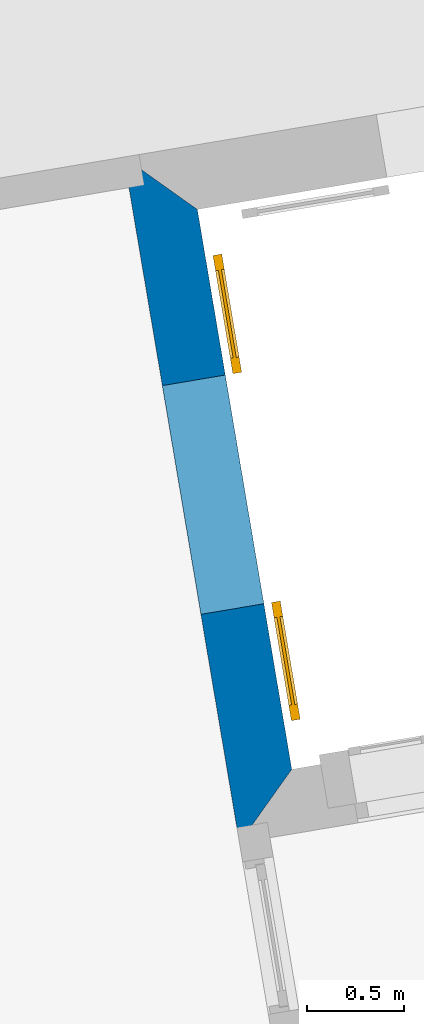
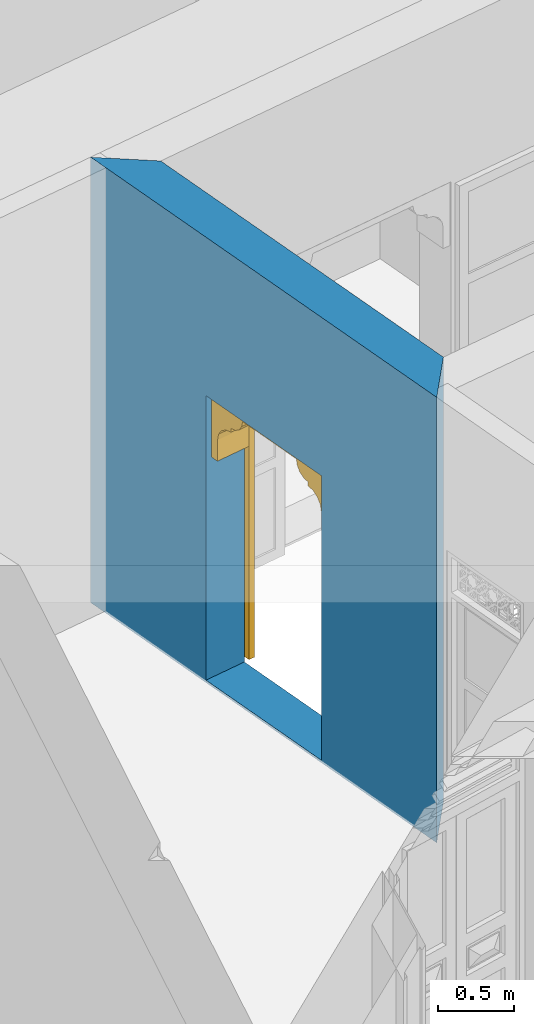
# One storey, part 9 of 15: 1 door, 1 wall, 1 opening.
"""IFC4 building model written with IfcOpenShell, lengths in metres."""

from ifc_helpers import new_model, si_unit, frame, origin, origin_with_axes, place, context, subcontext, project, spatial, polyline, outline, extrude, faceted_brep, source, transform, mapped, material, layer, layer_set, layer_usage, type_object, type_shapes, element, fill, save


model = new_model("IFC4")

# Units and contexts
model_context = context("Model", 3, world=origin_with_axes())
body_context = subcontext(model_context, "Body", "Model", "MODEL_VIEW")
ifc_project = project(units=[si_unit("PLANEANGLEUNIT", "RADIAN"), si_unit("MASSUNIT", "GRAM", prefix="KILO"), si_unit("FORCEUNIT", "NEWTON", prefix="KILO"), si_unit("LENGTHUNIT", "METRE"), si_unit("AREAUNIT", "SQUARE_METRE"), si_unit("VOLUMEUNIT", "CUBIC_METRE")], contexts=[model_context, model_context])

# Site, building, storey
site_placement = place(None, origin_with_axes())
site = spatial("IfcSite", under=ifc_project, at=site_placement, Name="Site plot-6", CompositionType="ELEMENT")
building_placement = place(None, origin_with_axes())
building = spatial("IfcBuilding", under=site, at=building_placement, Name="Building plot-6", CompositionType="ELEMENT")
storey_placement = place(None, origin_with_axes())
storey = spatial("IfcBuildingStorey", under=building, at=storey_placement, Name="plot-6 0", CompositionType="ELEMENT", Elevation=0.0)

# Wall, opening, door
ifc_material = material(Name="Masonry")
ifc_layer = layer(ifc_material, 0.33, ventilated=False)
ifc_layer_set = layer_set([ifc_layer], Name="exterior_0.08_0.25")
ifc_layer_usage = layer_usage(ifc_layer_set, "AXIS2", "POSITIVE", -0.25)
wall_type = type_object("IfcWallType", Name="exterior_0.08_0.25", PredefinedType="SOLIDWALL", material=ifc_layer_set)
wall_placement = place(storey_placement, frame((-6.37480768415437, -0.724200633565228, 0.0), z_axis=(0.0, 0.0, 1.0), x_axis=(-0.166292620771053, 0.986076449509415, 0.0)))
wall = element("IfcWall", 1, at=wall_placement, inside=storey, type_object=wall_type, material=ifc_layer_usage, Name="exterior", context=body_context, shape_type="SweptSolid", body=[
    extrude(outline(polyline([(-0.0800000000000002, 0.0799999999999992), (0.25, -0.25), (3.1871885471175, -0.249999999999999), (3.51718854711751, 0.0799999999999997), (-0.0800000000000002, 0.0799999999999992)])), origin_with_axes(), (0.0, 0.0, 1.0), 3.6),
])
opening_placement = place(wall_placement, frame((1.11859427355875, 0.0, 0.02)))
opening = element("IfcOpeningElement", 2, at=opening_placement, cuts=wall, Name="My Opening", ObjectType="Opening", context=body_context, shape_type="SweptSolid", body=[
    extrude(outline(polyline([(0.0, -0.27), (1.2, -0.27), (1.2, 1.1), (0.0, 1.1), (0.0, -0.27)])), origin_with_axes(), (0.0, 0.0, 1.0), 2.3),
])
door_type = type_object("IfcDoorType", Name="arch-1200x2300", OperationType="SINGLE_SWING_LEFT", PredefinedType="NOTDEFINED")
shared_shape = source(origin(), body_context, "Body", "Brep", [
    faceted_brep([(-0.08, -0.02, 0.08), (-0.08, -0.02, 0.0), (-0.54, -0.02, 0.0), (-0.54, -0.02, 0.08), (-0.62, -0.02, 0.0), (-0.62, -0.02, 0.08), (-0.54, -0.035, 0.08), (-0.08, -0.035, 0.08), (0.0, -0.02, 0.08), (0.0, -0.02, 0.0), (-0.08, -0.066, 0.0), (-0.54, -0.066, 0.0), (-0.62, -0.066, 0.0), (-0.62, -0.066, 0.08), (-0.54, -0.02, 0.743333), (-0.62, -0.02, 0.743333), (-0.54, -0.035, 0.743333), (-0.08, -0.035, 0.743333), (-0.08, -0.02, 0.743333), (0.0, -0.02, 0.743333), (0.0, -0.066, 0.08), (0.0, -0.066, 0.0), (-0.54, -0.066, 0.08), (-0.08, -0.066, 0.08), (-0.62, -0.066, 0.743333), (-0.54, -0.02, 0.823333), (-0.62, -0.02, 0.823333), (0.0, -0.066, 0.743333), (0.0, -0.02, 0.823333), (-0.08, -0.02, 0.823333), (-0.08, -0.051, 0.08), (-0.54, -0.051, 0.08), (-0.54, -0.066, 0.743333), (-0.62, -0.066, 0.823333), (-0.54, -0.02, 1.486667), (-0.62, -0.02, 1.486667), (0.0, -0.066, 0.823333), (-0.08, -0.066, 0.743333), (0.0, -0.02, 1.486667), (-0.08, -0.02, 1.486667), (-0.08, -0.051, 0.743333), (-0.54, -0.051, 0.743333), (-0.54, -0.066, 0.823333), (-0.62, -0.066, 1.486667), (-0.54, -0.035, 0.823333), (-0.08, -0.035, 0.823333), (-0.54, -0.035, 1.486667), (-0.54, -0.02, 1.566667), (-0.62, -0.02, 1.566667), (0.0, -0.066, 1.486667), (-0.08, -0.066, 0.823333), (-0.08, -0.035, 1.486667), (0.0, -0.02, 1.566667), (-0.08, -0.02, 1.566667), (-0.54, -0.066, 1.486667), (-0.62, -0.066, 1.566667), (-0.54, -0.02, 2.23), (-0.62, -0.02, 2.23), (0.0, -0.066, 1.566667), (-0.08, -0.066, 1.486667), (0.0, -0.02, 2.23), (-0.08, -0.02, 2.23), (-0.08, -0.051, 0.823333), (-0.54, -0.051, 0.823333), (-0.54, -0.051, 1.486667), (-0.54, -0.066, 1.566667), (-0.62, -0.066, 2.23), (-0.54, -0.035, 1.566667), (-0.08, -0.035, 1.566667), (-0.54, -0.035, 2.23), (-0.54, -0.02, 2.31), (-0.62, -0.02, 2.31), (0.0, -0.066, 2.23), (-0.08, -0.066, 1.566667), (-0.08, -0.051, 1.486667), (-0.08, -0.035, 2.23), (0.0, -0.02, 2.31), (-0.08, -0.02, 2.31), (-0.54, -0.066, 2.23), (-0.62, -0.066, 2.31), (-0.54, -0.066, 2.31), (0.0, -0.066, 2.31), (-0.08, -0.066, 2.23), (-0.08, -0.066, 2.31), (-0.08, -0.051, 1.566667), (-0.54, -0.051, 1.566667), (-0.54, -0.051, 2.23), (-0.08, -0.051, 2.23), (1.74, -0.02, 0.08), (1.74, -0.02, 0.0), (1.28, -0.02, 0.0), (1.28, -0.02, 0.08), (1.82, -0.02, 0.08), (1.82, -0.02, 0.0), (1.28, -0.035, 0.08), (1.74, -0.035, 0.08), (1.2, -0.02, 0.0), (1.2, -0.02, 0.08), (1.74, -0.066, 0.0), (1.28, -0.066, 0.0), (1.82, -0.066, 0.08), (1.82, -0.066, 0.0), (1.82, -0.02, 0.743333), (1.74, -0.02, 0.743333), (1.74, -0.035, 0.743333), (1.28, -0.035, 0.743333), (1.28, -0.02, 0.743333), (1.2, -0.02, 0.743333), (1.2, -0.066, 0.0), (1.2, -0.066, 0.08), (1.28, -0.066, 0.08), (1.74, -0.066, 0.08), (1.82, -0.066, 0.743333), (1.82, -0.02, 0.823333), (1.74, -0.02, 0.823333), (1.2, -0.066, 0.743333), (1.28, -0.02, 0.823333), (1.2, -0.02, 0.823333), (1.74, -0.051, 0.08), (1.28, -0.051, 0.08), (1.74, -0.066, 0.743333), (1.82, -0.066, 0.823333), (1.82, -0.02, 1.486667), (1.74, -0.02, 1.486667), (1.2, -0.066, 0.823333), (1.28, -0.066, 0.743333), (1.28, -0.02, 1.486667), (1.2, -0.02, 1.486667), (1.28, -0.051, 0.743333), (1.74, -0.051, 0.743333), (1.74, -0.066, 0.823333), (1.82, -0.066, 1.486667), (1.28, -0.035, 0.823333), (1.74, -0.035, 0.823333), (1.74, -0.035, 1.486667), (1.82, -0.02, 1.566667), (1.74, -0.02, 1.566667), (1.2, -0.066, 1.486667), (1.28, -0.066, 0.823333), (1.28, -0.035, 1.486667), (1.28, -0.02, 1.566667), (1.2, -0.02, 1.566667), (1.74, -0.066, 1.486667), (1.82, -0.066, 1.566667), (1.82, -0.02, 2.23), (1.74, -0.02, 2.23), (1.2, -0.066, 1.566667), (1.28, -0.066, 1.486667), (1.28, -0.02, 2.23), (1.2, -0.02, 2.23), (1.74, -0.051, 0.823333), (1.28, -0.051, 0.823333), (1.74, -0.051, 1.486667), (1.74, -0.066, 1.566667), (1.82, -0.066, 2.23), (1.28, -0.035, 1.566667), (1.74, -0.035, 1.566667), (1.74, -0.035, 2.23), (1.82, -0.02, 2.31), (1.74, -0.02, 2.31), (1.2, -0.066, 2.23), (1.28, -0.066, 1.566667), (1.28, -0.051, 1.486667), (1.28, -0.035, 2.23), (1.28, -0.02, 2.31), (1.2, -0.02, 2.31), (1.74, -0.066, 2.23), (1.82, -0.066, 2.31), (1.74, -0.066, 2.31), (1.2, -0.066, 2.31), (1.28, -0.066, 2.23), (1.28, -0.066, 2.31), (1.74, -0.051, 1.566667), (1.28, -0.051, 1.566667), (1.74, -0.051, 2.23), (1.28, -0.051, 2.23), (1.2, 0.03, 1.78), (1.2, 0.03, 1.95), (1.14, 0.03, 1.95), (1.14, 0.03, 1.78), (1.14, 0.3, 1.95), (1.14, 0.3, 1.78), (1.2, 0.03, 2.12), (1.129, 0.03, 2.004), (1.2, 0.3, 1.78), (1.2, 0.3, 1.95), (1.129, 0.3, 2.004), (1.099, 0.03, 2.049), (1.2, 0.3, 2.12), (1.099, 0.3, 2.049), (1.054, 0.03, 2.079), (1.2, 0.3, 2.29), (1.2, 0.03, 2.29), (1.054, 0.3, 2.079), (1.0, 0.03, 2.09), (1.0, 0.03, 2.12), (0.954, 0.03, 2.129), (0.88, 0.3, 2.29), (0.88, 0.03, 2.29), (1.0, 0.3, 2.12), (0.954, 0.3, 2.129), (1.0, 0.3, 2.09), (0.915, 0.03, 2.155), (0.889, 0.3, 2.194), (0.88, 0.3, 2.24), (0.88, 0.03, 2.24), (0.889, 0.03, 2.194), (0.915, 0.3, 2.155), (0.06, 0.03, 1.78), (0.06, 0.03, 1.95), (0.0, 0.03, 1.95), (0.0, 0.03, 1.78), (0.06, 0.3, 1.78), (0.06, 0.3, 1.95), (0.071, 0.03, 2.004), (0.0, 0.03, 2.12), (0.0, 0.3, 1.95), (0.0, 0.3, 1.78), (0.071, 0.3, 2.004), (0.101, 0.03, 2.049), (0.0, 0.3, 2.12), (0.101, 0.3, 2.049), (0.146, 0.03, 2.079), (0.0, 0.03, 2.29), (0.0, 0.3, 2.29), (0.146, 0.3, 2.079), (0.2, 0.03, 2.12), (0.2, 0.03, 2.09), (0.246, 0.03, 2.129), (0.32, 0.03, 2.29), (0.32, 0.3, 2.29), (0.246, 0.3, 2.129), (0.2, 0.3, 2.12), (0.2, 0.3, 2.09), (0.285, 0.03, 2.155), (0.32, 0.3, 2.24), (0.311, 0.3, 2.194), (0.311, 0.03, 2.194), (0.32, 0.03, 2.24), (0.285, 0.3, 2.155)], [[[0, 1, 2, 3]], [[4, 5, 3, 2]], [[0, 3, 6, 7]], [[1, 0, 8, 9]], [[2, 1, 10, 11]], [[5, 4, 12, 13]], [[14, 3, 5, 15]], [[4, 2, 11, 12]], [[3, 14, 16, 6]], [[6, 16, 17, 7]], [[18, 0, 7, 17]], [[0, 18, 19, 8]], [[9, 8, 20, 21]], [[1, 9, 21, 10]], [[22, 11, 10, 23]], [[13, 12, 11, 22]], [[15, 5, 13, 24]], [[25, 14, 15, 26]], [[14, 18, 17, 16]], [[8, 19, 27, 20]], [[28, 19, 18, 29]], [[23, 10, 21, 20]], [[22, 23, 30, 31]], [[22, 32, 24, 13]], [[26, 15, 24, 33]], [[29, 18, 14, 25]], [[34, 25, 26, 35]], [[19, 28, 36, 27]], [[20, 27, 37, 23]], [[38, 28, 29, 39]], [[23, 37, 40, 30]], [[41, 31, 30, 40]], [[32, 22, 31, 41]], [[32, 42, 33, 24]], [[35, 26, 33, 43]], [[29, 25, 44, 45]], [[25, 34, 46, 44]], [[47, 34, 35, 48]], [[28, 38, 49, 36]], [[27, 36, 50, 37]], [[39, 29, 45, 51]], [[52, 38, 39, 53]], [[37, 32, 41, 40]], [[37, 50, 42, 32]], [[42, 54, 43, 33]], [[48, 35, 43, 55]], [[44, 46, 51, 45]], [[34, 39, 51, 46]], [[34, 47, 53, 39]], [[56, 47, 48, 57]], [[38, 52, 58, 49]], [[36, 49, 59, 50]], [[60, 52, 53, 61]], [[42, 50, 62, 63]], [[54, 42, 63, 64]], [[54, 65, 55, 43]], [[57, 48, 55, 66]], [[53, 47, 67, 68]], [[47, 56, 69, 67]], [[70, 56, 57, 71]], [[52, 60, 72, 58]], [[49, 58, 73, 59]], [[50, 59, 74, 62]], [[61, 53, 68, 75]], [[76, 60, 61, 77]], [[64, 63, 62, 74]], [[59, 54, 64, 74]], [[65, 54, 59, 73]], [[65, 78, 66, 55]], [[71, 57, 66, 79]], [[67, 69, 75, 68]], [[56, 61, 75, 69]], [[77, 61, 56, 70]], [[70, 71, 79, 80]], [[60, 76, 81, 72]], [[58, 72, 82, 73]], [[76, 77, 83, 81]], [[65, 73, 84, 85]], [[78, 65, 85, 86]], [[78, 80, 79, 66]], [[77, 70, 80, 83]], [[72, 81, 83, 82]], [[73, 82, 87, 84]], [[86, 85, 84, 87]], [[82, 78, 86, 87]], [[82, 83, 80, 78]], [[88, 89, 90, 91]], [[89, 88, 92, 93]], [[94, 95, 88, 91]], [[96, 97, 91, 90]], [[98, 99, 90, 89]], [[100, 101, 93, 92]], [[102, 92, 88, 103]], [[101, 98, 89, 93]], [[95, 104, 103, 88]], [[94, 105, 104, 95]], [[105, 94, 91, 106]], [[97, 107, 106, 91]], [[108, 109, 97, 96]], [[99, 108, 96, 90]], [[110, 99, 98, 111]], [[111, 98, 101, 100]], [[112, 100, 92, 102]], [[113, 102, 103, 114]], [[104, 105, 106, 103]], [[109, 115, 107, 97]], [[116, 106, 107, 117]], [[109, 108, 99, 110]], [[118, 119, 110, 111]], [[100, 112, 120, 111]], [[121, 112, 102, 113]], [[114, 103, 106, 116]], [[122, 113, 114, 123]], [[115, 124, 117, 107]], [[110, 125, 115, 109]], [[126, 116, 117, 127]], [[119, 128, 125, 110]], [[128, 119, 118, 129]], [[129, 118, 111, 120]], [[112, 121, 130, 120]], [[131, 121, 113, 122]], [[132, 133, 114, 116]], [[133, 134, 123, 114]], [[135, 122, 123, 136]], [[124, 137, 127, 117]], [[125, 138, 124, 115]], [[139, 132, 116, 126]], [[140, 126, 127, 141]], [[128, 129, 120, 125]], [[120, 130, 138, 125]], [[121, 131, 142, 130]], [[143, 131, 122, 135]], [[132, 139, 134, 133]], [[134, 139, 126, 123]], [[126, 140, 136, 123]], [[144, 135, 136, 145]], [[137, 146, 141, 127]], [[138, 147, 137, 124]], [[148, 140, 141, 149]], [[150, 151, 138, 130]], [[152, 150, 130, 142]], [[131, 143, 153, 142]], [[154, 143, 135, 144]], [[155, 156, 136, 140]], [[156, 157, 145, 136]], [[158, 144, 145, 159]], [[146, 160, 149, 141]], [[147, 161, 146, 137]], [[151, 162, 147, 138]], [[163, 155, 140, 148]], [[164, 148, 149, 165]], [[162, 151, 150, 152]], [[162, 152, 142, 147]], [[161, 147, 142, 153]], [[143, 154, 166, 153]], [[167, 154, 144, 158]], [[155, 163, 157, 156]], [[157, 163, 148, 145]], [[159, 145, 148, 164]], [[168, 167, 158, 159]], [[160, 169, 165, 149]], [[161, 170, 160, 146]], [[169, 171, 164, 165]], [[172, 173, 161, 153]], [[174, 172, 153, 166]], [[154, 167, 168, 166]], [[171, 168, 159, 164]], [[170, 171, 169, 160]], [[173, 175, 170, 161]], [[175, 173, 172, 174]], [[175, 174, 166, 170]], [[166, 168, 171, 170]], [[176, 177, 178, 179]], [[180, 181, 179, 178]], [[177, 182, 183, 178]], [[177, 176, 184, 185]], [[181, 184, 176, 179]], [[181, 180, 185, 184]], [[186, 180, 178, 183]], [[182, 187, 183]], [[182, 177, 185, 188]], [[180, 186, 188, 185]], [[189, 186, 183, 187]], [[182, 190, 187]], [[188, 191, 192, 182]], [[188, 186, 189]], [[193, 189, 187, 190]], [[194, 190, 182, 195]], [[182, 192, 196, 195]], [[192, 191, 197, 198]], [[199, 200, 191, 188]], [[188, 189, 193]], [[201, 193, 190, 194]], [[199, 201, 194, 195]], [[200, 199, 195, 196]], [[192, 202, 196]], [[191, 203, 204, 197]], [[192, 198, 205, 206]], [[207, 191, 200]], [[199, 188, 193, 201]], [[207, 200, 196, 202]], [[192, 206, 202]], [[204, 203, 206, 205]], [[203, 191, 207]], [[203, 207, 202, 206]], [[208, 209, 210, 211]], [[209, 208, 212, 213]], [[209, 214, 215, 210]], [[211, 210, 216, 217]], [[208, 211, 217, 212]], [[217, 216, 213, 212]], [[214, 209, 213, 218]], [[214, 219, 215]], [[220, 216, 210, 215]], [[216, 220, 218, 213]], [[219, 214, 218, 221]], [[219, 222, 215]], [[215, 223, 224, 220]], [[221, 218, 220]], [[222, 219, 221, 225]], [[226, 215, 222, 227]], [[226, 228, 223, 215]], [[229, 230, 224, 223]], [[220, 224, 231, 232]], [[225, 221, 220]], [[227, 222, 225, 233]], [[226, 227, 233, 232]], [[228, 226, 232, 231]], [[228, 234, 223]], [[230, 235, 236, 224]], [[237, 238, 229, 223]], [[231, 224, 239]], [[233, 225, 220, 232]], [[234, 228, 231, 239]], [[234, 237, 223]], [[238, 237, 236, 235]], [[239, 224, 236]], [[237, 234, 239, 236]], [[238, 235, 204, 205]], [[235, 230, 197, 204]], [[229, 238, 205, 198]], [[230, 229, 198, 197]]]),
])
type_shapes(door_type, [shared_shape])
door_placement = place(storey_placement, frame((-6.29458101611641, 0.423717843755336, 0.02), z_axis=(0.0, 0.0, 1.0), x_axis=(-0.199551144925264, 1.1832917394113, 0.0)))
door = element("IfcDoor", 3, at=door_placement, inside=storey, type_object=door_type, Name="circulation sahn door", OverallHeight=2.3, OverallWidth=1.2, context=body_context, shape_type="MappedRepresentation", body=[
    mapped(shared_shape, transform((0.0, 0.0, 0.0), scale=1.0)),
])
fill(opening, door)

save(model, "model.ifc")
